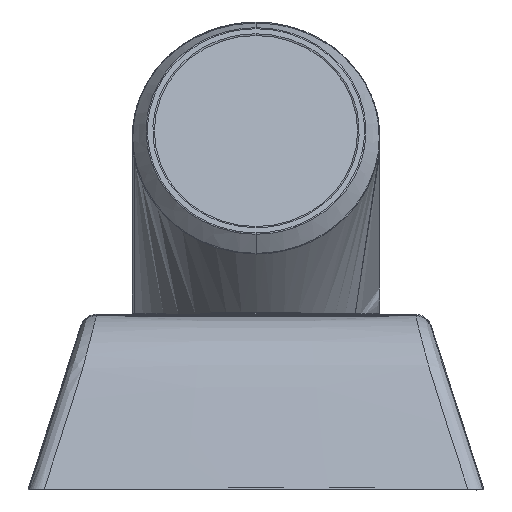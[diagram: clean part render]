
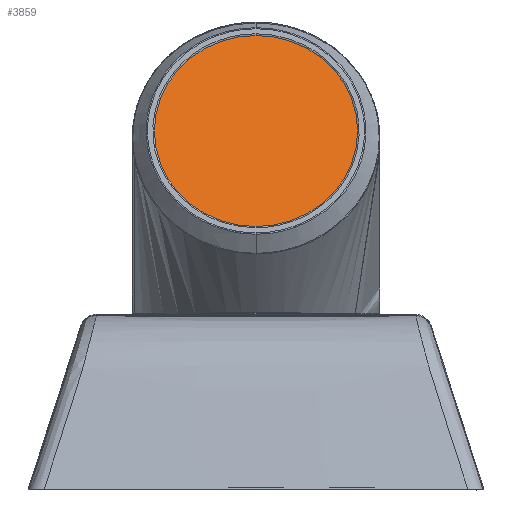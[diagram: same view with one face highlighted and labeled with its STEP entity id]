
A CAD part, front view. The second image highlights one B-rep face of the part: STEP entity #3859.
In plain terms, the highlighted planar face has unit normal (0, -0.94, 0.342).
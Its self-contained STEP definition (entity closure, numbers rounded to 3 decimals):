
#123 = VERTEX_POINT ( 'NONE', #3770 ) ;
#270 = AXIS2_PLACEMENT_3D ( 'NONE', #5087, #10603, #5960 ) ;
#1182 = CARTESIAN_POINT ( 'NONE',  ( 0., 1002.493, 141.143 ) ) ;
#1274 = AXIS2_PLACEMENT_3D ( 'NONE', #1182, #5014, #2187 ) ;
#1531 = CARTESIAN_POINT ( 'NONE',  ( 0., 1002.493, 141.143 ) ) ;
#2187 = DIRECTION ( 'NONE',  ( 0., 0.342, 0.94 ) ) ;
#2768 = EDGE_CURVE ( 'NONE', #7919, #123, #3686, .T. ) ;
#3490 = EDGE_LOOP ( 'NONE', ( #4384, #6940 ) ) ;
#3686 = CIRCLE ( 'NONE', #1274, 30.2 ) ;
#3770 = CARTESIAN_POINT ( 'NONE',  ( 0., 992.164, 112.765 ) ) ;
#3859 = ADVANCED_FACE ( 'NONE', ( #10141 ), #12079, .F. ) ;
#4384 = ORIENTED_EDGE ( 'NONE', *, *, #10446, .F. ) ;
#5014 = DIRECTION ( 'NONE',  ( 0., 0.94, -0.342 ) ) ;
#5087 = CARTESIAN_POINT ( 'NONE',  ( 0., 1002.493, 141.143 ) ) ;
#5373 = DIRECTION ( 'NONE',  ( 0., 0.94, -0.342 ) ) ;
#5960 = DIRECTION ( 'NONE',  ( 0., 0.342, 0.94 ) ) ;
#6493 = CIRCLE ( 'NONE', #270, 30.2 ) ;
#6896 = AXIS2_PLACEMENT_3D ( 'NONE', #1531, #5373, #7187 ) ;
#6940 = ORIENTED_EDGE ( 'NONE', *, *, #2768, .F. ) ;
#7187 = DIRECTION ( 'NONE',  ( 0., 0.342, 0.94 ) ) ;
#7919 = VERTEX_POINT ( 'NONE', #11964 ) ;
#10141 = FACE_OUTER_BOUND ( 'NONE', #3490, .T. ) ;
#10446 = EDGE_CURVE ( 'NONE', #123, #7919, #6493, .T. ) ;
#10603 = DIRECTION ( 'NONE',  ( 0., 0.94, -0.342 ) ) ;
#11964 = CARTESIAN_POINT ( 'NONE',  ( 0., 1012.822, 169.522 ) ) ;
#12079 = PLANE ( 'NONE',  #6896 ) ;
